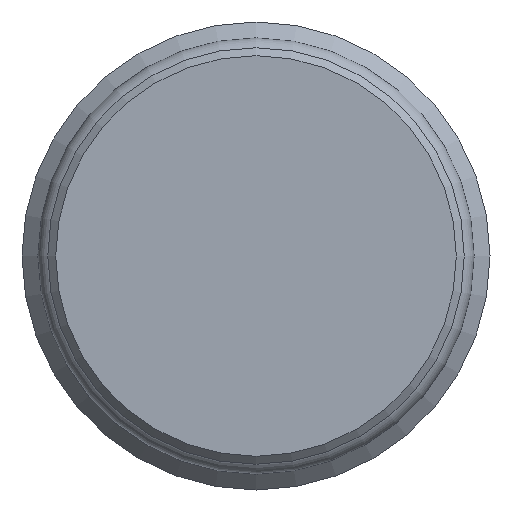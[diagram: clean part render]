
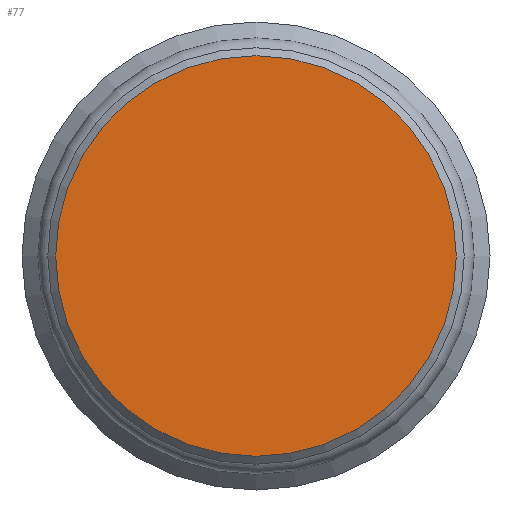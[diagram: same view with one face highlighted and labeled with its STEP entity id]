
A CAD part, left-side view. The second image highlights one B-rep face of the part: STEP entity #77.
In plain terms, the highlighted planar face has unit normal (-1, 0, 0).
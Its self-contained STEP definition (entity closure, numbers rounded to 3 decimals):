
#77 = ADVANCED_FACE( '', ( #173 ), #174, .F. );
#173 = FACE_OUTER_BOUND( '', #292, .T. );
#174 = PLANE( '', #293 );
#292 = EDGE_LOOP( '', ( #447 ) );
#293 = AXIS2_PLACEMENT_3D( '', #448, #449, #450 );
#447 = ORIENTED_EDGE( '', *, *, #640, .F. );
#448 = CARTESIAN_POINT( '', ( 0., 0., 0. ) );
#449 = DIRECTION( '', ( 1., 0., 0. ) );
#450 = DIRECTION( '', ( 0., 0., -1. ) );
#640 = EDGE_CURVE( '', #753, #753, #754, .T. );
#753 = VERTEX_POINT( '', #898 );
#754 = CIRCLE( '', #899, 5.05 );
#898 = CARTESIAN_POINT( '', ( 0., 0., -5.05 ) );
#899 = AXIS2_PLACEMENT_3D( '', #1014, #1015, #1016 );
#1014 = CARTESIAN_POINT( '', ( 0., 0., 0. ) );
#1015 = DIRECTION( '', ( 1., 0., 0. ) );
#1016 = DIRECTION( '', ( 0., 0., -1. ) );
